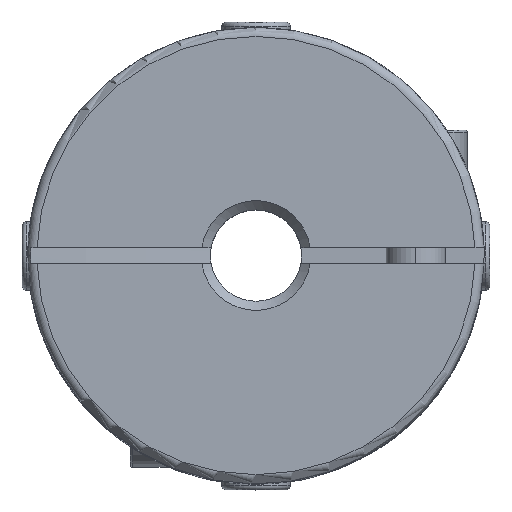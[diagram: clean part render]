
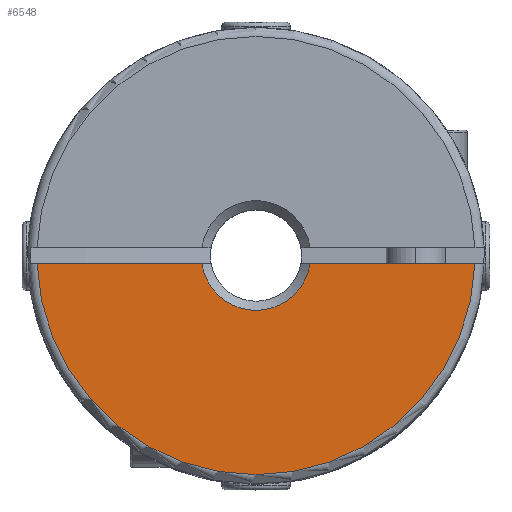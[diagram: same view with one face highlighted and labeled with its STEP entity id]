
A CAD part, top view. The second image highlights one B-rep face of the part: STEP entity #6548.
In plain terms, the highlighted planar face has unit normal (0, 0, 1).
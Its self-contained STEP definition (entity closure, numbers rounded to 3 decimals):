
#463 = AXIS2_PLACEMENT_3D ( 'NONE', #10938, #10944, #10945 ) ;
#3487 = LINE ( 'NONE', #12460, #3494 ) ;
#3490 = LINE ( 'NONE', #12456, #3492 ) ;
#3492 = VECTOR ( 'NONE', #12457, 1000. ) ;
#3493 = CIRCLE ( 'NONE', #14184, 2.4 ) ;
#3494 = VECTOR ( 'NONE', #12465, 1000. ) ;
#3915 = CIRCLE ( 'NONE', #14362, 9.6 ) ;
#5929 = CARTESIAN_POINT ( 'NONE',  ( 0., 0., 11.7 ) ) ;
#5930 = DIRECTION ( 'NONE',  ( 0., 0., 1. ) ) ;
#5931 = DIRECTION ( 'NONE',  ( -1., 0., 0. ) ) ;
#6236 = ORIENTED_EDGE ( 'NONE', *, *, #11805, .F. ) ;
#6250 = ORIENTED_EDGE ( 'NONE', *, *, #11806, .F. ) ;
#6251 = ORIENTED_EDGE ( 'NONE', *, *, #12912, .T. ) ;
#6548 = ADVANCED_FACE ( 'NONE', ( #15264 ), #10942, .T. ) ;
#6685 = VERTEX_POINT ( 'NONE', #11123 ) ;
#6922 = EDGE_LOOP ( 'NONE', ( #6236, #6251, #6250, #10562 ) ) ;
#8304 = VERTEX_POINT ( 'NONE', #12101 ) ;
#8329 = VERTEX_POINT ( 'NONE', #12118 ) ;
#8388 = VERTEX_POINT ( 'NONE', #12163 ) ;
#10562 = ORIENTED_EDGE ( 'NONE', *, *, #11807, .T. ) ;
#10938 = CARTESIAN_POINT ( 'NONE',  ( 0., 0., 11.7 ) ) ;
#10942 = PLANE ( 'NONE',  #463 ) ;
#10944 = DIRECTION ( 'NONE',  ( 0., 0., 1. ) ) ;
#10945 = DIRECTION ( 'NONE',  ( -1., 0., 0. ) ) ;
#11123 = CARTESIAN_POINT ( 'NONE',  ( 9.594, -0.35, 11.7 ) ) ;
#11805 = EDGE_CURVE ( 'NONE', #8329, #8304, #3490, .T. ) ;
#11806 = EDGE_CURVE ( 'NONE', #8388, #6685, #3487, .T. ) ;
#11807 = EDGE_CURVE ( 'NONE', #8388, #8304, #3493, .T. ) ;
#12101 = CARTESIAN_POINT ( 'NONE',  ( -2.374, -0.35, 11.7 ) ) ;
#12118 = CARTESIAN_POINT ( 'NONE',  ( -9.594, -0.35, 11.7 ) ) ;
#12163 = CARTESIAN_POINT ( 'NONE',  ( 2.374, -0.35, 11.7 ) ) ;
#12456 = CARTESIAN_POINT ( 'NONE',  ( 0., -0.35, 11.7 ) ) ;
#12457 = DIRECTION ( 'NONE',  ( 1., 0., 0. ) ) ;
#12460 = CARTESIAN_POINT ( 'NONE',  ( 0., -0.35, 11.7 ) ) ;
#12465 = DIRECTION ( 'NONE',  ( 1., 0., 0. ) ) ;
#12469 = CARTESIAN_POINT ( 'NONE',  ( 0., 0., 11.7 ) ) ;
#12470 = DIRECTION ( 'NONE',  ( 0., 0., -1. ) ) ;
#12471 = DIRECTION ( 'NONE',  ( -1., 0., 0. ) ) ;
#12912 = EDGE_CURVE ( 'NONE', #8329, #6685, #3915, .T. ) ;
#14184 = AXIS2_PLACEMENT_3D ( 'NONE', #12469, #12470, #12471 ) ;
#14362 = AXIS2_PLACEMENT_3D ( 'NONE', #5929, #5930, #5931 ) ;
#15264 = FACE_OUTER_BOUND ( 'NONE', #6922, .T. ) ;
